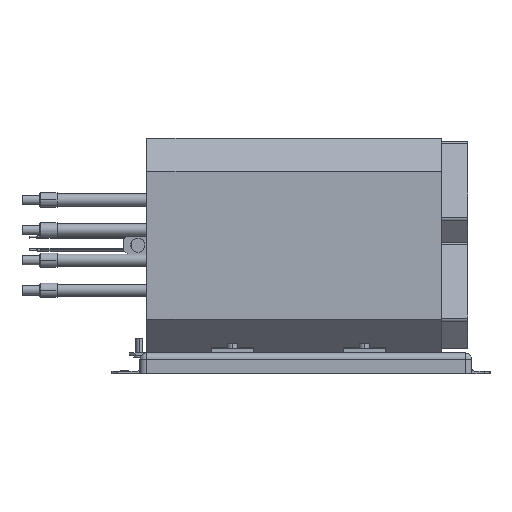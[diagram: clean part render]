
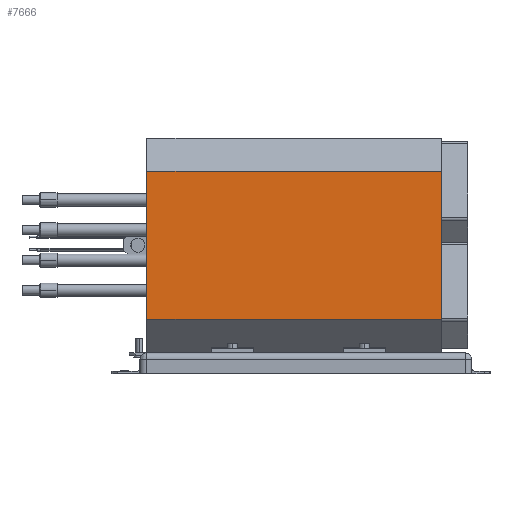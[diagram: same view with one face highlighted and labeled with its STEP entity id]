
A CAD part, left-side view. The second image highlights one B-rep face of the part: STEP entity #7666.
In plain terms, the highlighted planar face has unit normal (-1, 0, 0).
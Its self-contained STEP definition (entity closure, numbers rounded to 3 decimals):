
#1328 = CARTESIAN_POINT ( 'NONE',  ( -331., -50., 184. ) ) ;
#1768 = VERTEX_POINT ( 'NONE', #22790 ) ;
#1982 = VECTOR ( 'NONE', #10800, 1000. ) ;
#2795 = ORIENTED_EDGE ( 'NONE', *, *, #22023, .T. ) ;
#4053 = VECTOR ( 'NONE', #27903, 1000. ) ;
#4427 = CARTESIAN_POINT ( 'NONE',  ( -331., 297.121, 78.449 ) ) ;
#5664 = EDGE_CURVE ( 'NONE', #10262, #8837, #30531, .T. ) ;
#7666 = ADVANCED_FACE ( 'NONE', ( #9791 ), #23632, .T. ) ;
#8837 = VERTEX_POINT ( 'NONE', #23675 ) ;
#9191 = CARTESIAN_POINT ( 'NONE',  ( -331., 297.121, 78.449 ) ) ;
#9791 = FACE_OUTER_BOUND ( 'NONE', #25325, .T. ) ;
#10262 = VERTEX_POINT ( 'NONE', #12248 ) ;
#10422 = DIRECTION ( 'NONE',  ( 0., 0., -1. ) ) ;
#10800 = DIRECTION ( 'NONE',  ( 0., 0., -1. ) ) ;
#12078 = AXIS2_PLACEMENT_3D ( 'NONE', #9191, #25953, #19245 ) ;
#12248 = CARTESIAN_POINT ( 'NONE',  ( -331., -470.5, 78.449 ) ) ;
#13077 = CARTESIAN_POINT ( 'NONE',  ( -331., -470.5, 184. ) ) ;
#15513 = EDGE_CURVE ( 'NONE', #1768, #22949, #20909, .T. ) ;
#15604 = ORIENTED_EDGE ( 'NONE', *, *, #15513, .T. ) ;
#18850 = DIRECTION ( 'NONE',  ( 0., 1., 0. ) ) ;
#19245 = DIRECTION ( 'NONE',  ( 0., 0., 1. ) ) ;
#20909 = LINE ( 'NONE', #30216, #4053 ) ;
#21864 = VECTOR ( 'NONE', #10422, 1000. ) ;
#22023 = EDGE_CURVE ( 'NONE', #22949, #8837, #29594, .T. ) ;
#22790 = CARTESIAN_POINT ( 'NONE',  ( -331., -470.5, 289.551 ) ) ;
#22949 = VERTEX_POINT ( 'NONE', #25591 ) ;
#23632 = PLANE ( 'NONE',  #12078 ) ;
#23675 = CARTESIAN_POINT ( 'NONE',  ( -331., -50., 78.449 ) ) ;
#24964 = VECTOR ( 'NONE', #18850, 1000. ) ;
#25325 = EDGE_LOOP ( 'NONE', ( #27688, #26021, #15604, #2795 ) ) ;
#25591 = CARTESIAN_POINT ( 'NONE',  ( -331., -50., 289.551 ) ) ;
#25953 = DIRECTION ( 'NONE',  ( -1., 0., 0. ) ) ;
#26021 = ORIENTED_EDGE ( 'NONE', *, *, #30723, .F. ) ;
#27037 = LINE ( 'NONE', #13077, #21864 ) ;
#27688 = ORIENTED_EDGE ( 'NONE', *, *, #5664, .F. ) ;
#27903 = DIRECTION ( 'NONE',  ( 0., 1., 0. ) ) ;
#29594 = LINE ( 'NONE', #1328, #1982 ) ;
#30216 = CARTESIAN_POINT ( 'NONE',  ( -331., 297.121, 289.551 ) ) ;
#30531 = LINE ( 'NONE', #4427, #24964 ) ;
#30723 = EDGE_CURVE ( 'NONE', #1768, #10262, #27037, .T. ) ;
